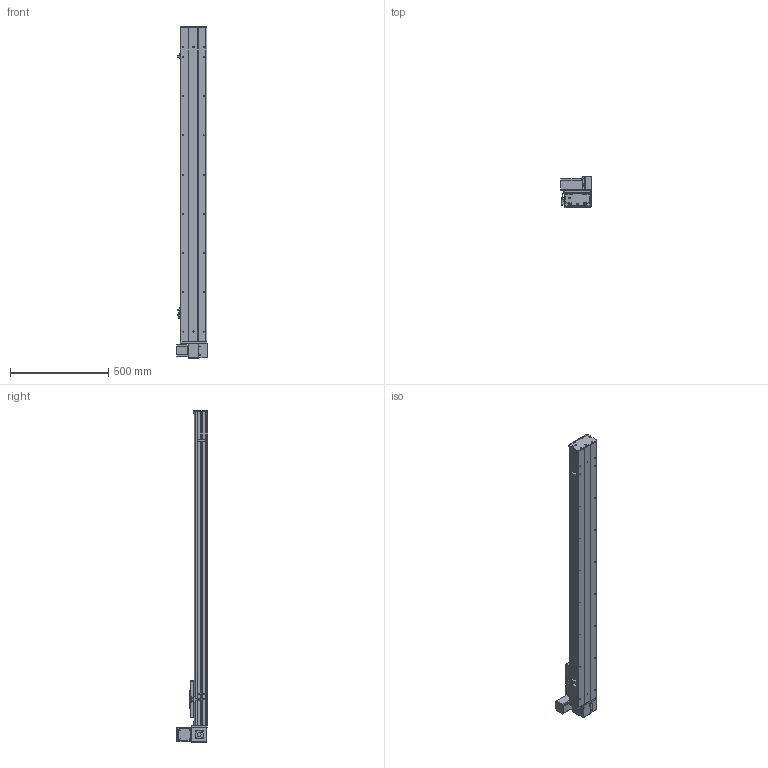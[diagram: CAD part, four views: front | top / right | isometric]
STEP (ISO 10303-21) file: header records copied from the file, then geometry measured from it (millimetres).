
FILE_DESCRIPTION (( 'STEP AP203' ), '1' );
FILE_NAME ('Y135CB-D90-S1300-UL-P400W.STEP', '2020-02-18T07:29:37', ( '微软用户' ), ( '微软中国' ), 'SwSTEP 2.0', 'SolidWorks 2017', '' );
FILE_SCHEMA (( 'CONFIG_CONTROL_DESIGN' ));
Length unit declared in the file: millimetre
Products named in the file (18): Y135CB-耜裔; 5C--俋欶; 135CB---遴掛极.-; C-雄赽釱--; 35CB---喘謫眊楊擘啣; Y10B-耜蚾蟀諉啣----; 0B-埴倛裔啣; 00B-俋欶BM--; 0B-源倛裔啣; Y10B--々湍喘謫眊--666; C-詩湍揤踡え-陔; 0B-萇儂楊擘啣; Y135CB-D90-S1300-UL-P400W; 135CB--詩湍-CE; san松下电机400不带刹车----; Y100-135俋离換覜ん--; 5CB --掛极耜裔啣-; Y135C-陔俋离換覜結え-
Assembly tree (21 placements, depth 2):
  Y135CB-D90-S1300-UL-P400W
    Y135CB-耜裔
    135CB---遴掛极.-
    35CB---喘謫眊楊擘啣
    0B-埴倛裔啣
    0B-源倛裔啣
    0B-萇儂楊擘啣
    san松下电机400不带刹车----
    5CB --掛极耜裔啣-  x2
    C-詩湍揤踡え-陔  x2
    135CB--詩湍-CE
    Y100-135俋离換覜ん--  x3
    Y135C-陔俋离換覜結え-
    5C--俋欶
    C-雄赽釱--
    Y10B-耜蚾蟀諉啣----
    00B-俋欶BM--
    Y10B--々湍喘謫眊--666
Bounding box: 157 x 158.7 x 1693 mm (x, y, z)
Volume: 5172300.9 mm3; surface area: 2031529.4 mm2
Topology: 21 solids, 21 shells, 953 faces, 2563 edges, 1698 vertices
Faces by surface type: cylinder 481, plane 456, cone 16
Entity records: 29753 total; most frequent: DIRECTION 4943, CARTESIAN_POINT 4900, ORIENTED_EDGE 4602, EDGE_CURVE 2301, AXIS2_PLACEMENT_3D 1805, VERTEX_POINT 1526, VECTOR 1333, LINE 1333
